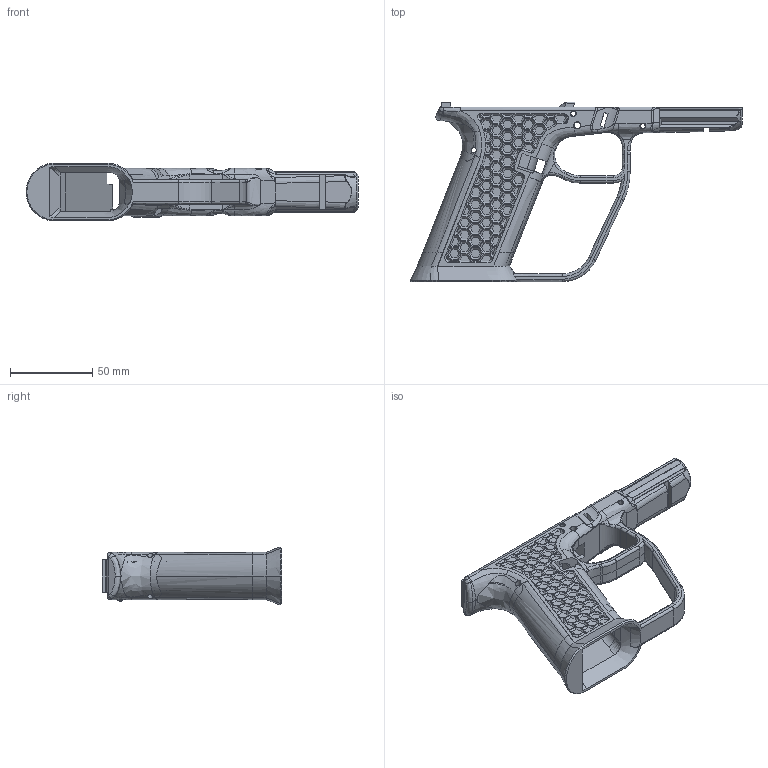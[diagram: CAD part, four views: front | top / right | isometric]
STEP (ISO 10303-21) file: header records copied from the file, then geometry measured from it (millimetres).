
FILE_DESCRIPTION(/* description */ (''),/* implementation_level */ '2;1');
FILE_NAME(/* name */ 'C:/Users/David/Desktop/STEP/SG17.2.step',/* time_stamp */ '2021-01-21T02:26:56-06:00',/* author */ (''),/* organization */ (''),/* preprocessor_version */ 'ST-DEVELOPER v18.1',/* originating_system */ 'Autodesk Translation Framework v9.7.1.1290',/* authorisation */ '');
FILE_SCHEMA (('AUTOMOTIVE_DESIGN { 1 0 10303 214 3 1 1 }'));
Products named in the file (1): FMDA DD17.2 v1.4 SFG
Bounding box: 202.12 x 109.21 x 35.29 mm (x, y, z)
Volume: 92941.2 mm3; surface area: 53392.1 mm2
Topology: 2 solids, 4 shells, 1677 faces, 4403 edges, 2865 vertices
Faces by surface type: plane 1167, bspline 296, cylinder 123, cone 58, torus 17, sphere 16
Full cylindrical faces by diameter (mm): 2 x1, 3 x4, 3.2 x2, 4 x2
Entity records: 77169 total; most frequent: CARTESIAN_POINT 37718, ORIENTED_EDGE 8788, DIRECTION 7039, EDGE_CURVE 4394, LINE 3187, VECTOR 3187, VERTEX_POINT 2865, AXIS2_PLACEMENT_3D 1926
